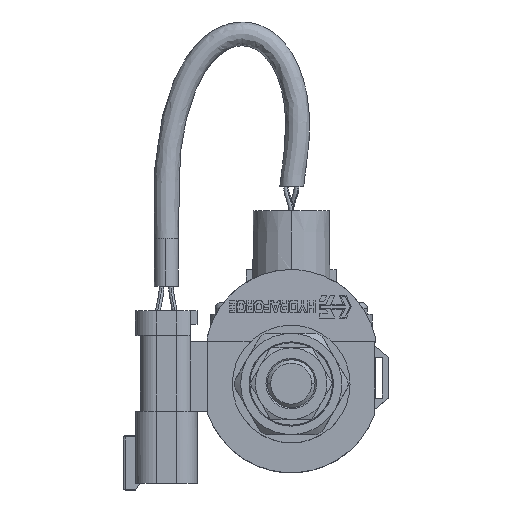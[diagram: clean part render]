
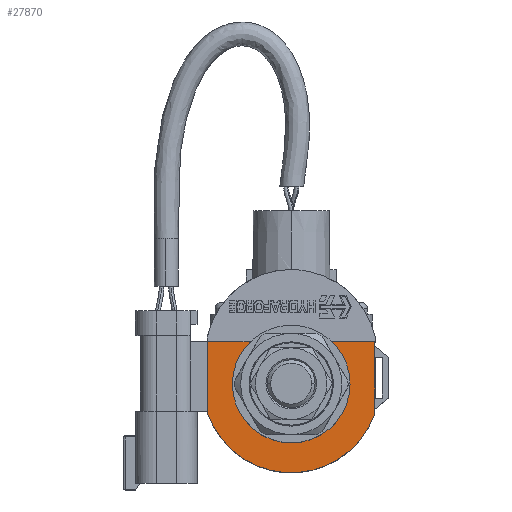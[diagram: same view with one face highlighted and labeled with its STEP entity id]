
A CAD part, top view. The second image highlights one B-rep face of the part: STEP entity #27870.
In plain terms, the highlighted planar face has unit normal (0, 0, 1).
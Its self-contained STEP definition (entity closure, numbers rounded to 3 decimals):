
#8184=CARTESIAN_POINT('',(0.,0.,24.384));
#8185=DIRECTION('',(0.,0.,1.));
#8186=DIRECTION('',(-0.803,0.596,0.));
#8187=AXIS2_PLACEMENT_3D('',#8184,#8185,#8186);
#8189=CARTESIAN_POINT('',(0.,0.,24.384));
#8190=DIRECTION('',(0.,0.,1.));
#8191=DIRECTION('',(-1.,0.,0.));
#8192=AXIS2_PLACEMENT_3D('',#8189,#8190,#8191);
#8194=CARTESIAN_POINT('',(0.,0.,24.384));
#8195=DIRECTION('',(0.,0.,1.));
#8196=DIRECTION('',(1.,0.,0.));
#8197=AXIS2_PLACEMENT_3D('',#8194,#8195,#8196);
#8199=DIRECTION('',(0.,1.,0.));
#8200=VECTOR('',#8199,2.921);
#8201=CARTESIAN_POINT('',(11.214,8.331,24.384));
#8202=LINE('',#8201,#8200);
#8203=DIRECTION('',(1.,0.,0.));
#8204=VECTOR('',#8203,11.062);
#8205=CARTESIAN_POINT('',(11.214,11.252,24.384));
#8206=LINE('',#8205,#8204);
#8207=DIRECTION('',(0.,-1.,0.));
#8208=VECTOR('',#8207,18.923);
#8209=CARTESIAN_POINT('',(22.276,11.252,24.384));
#8210=LINE('',#8209,#8208);
#8211=CARTESIAN_POINT('',(0.,0.,24.384));
#8212=DIRECTION('',(0.,0.,-1.));
#8213=DIRECTION('',(0.946,-0.326,0.));
#8214=AXIS2_PLACEMENT_3D('',#8211,#8212,#8213);
#8216=DIRECTION('',(0.,1.,0.));
#8217=VECTOR('',#8216,18.923);
#8218=CARTESIAN_POINT('',(-22.276,-7.671,24.384));
#8219=LINE('',#8218,#8217);
#8220=DIRECTION('',(1.,0.,0.));
#8221=VECTOR('',#8220,11.062);
#8222=CARTESIAN_POINT('',(-22.276,11.252,24.384));
#8223=LINE('',#8222,#8221);
#8224=DIRECTION('',(0.,-1.,0.));
#8225=VECTOR('',#8224,2.921);
#8226=CARTESIAN_POINT('',(-11.214,11.252,24.384));
#8227=LINE('',#8226,#8225);
#17413=CARTESIAN_POINT('',(-22.276,11.252,24.384));
#17414=VERTEX_POINT('',#17413);
#17415=CARTESIAN_POINT('',(-22.276,-7.671,24.384));
#17416=VERTEX_POINT('',#17415);
#17427=CARTESIAN_POINT('',(-11.214,8.331,24.384));
#17428=CARTESIAN_POINT('',(-13.97,0.,24.384));
#17429=VERTEX_POINT('',#17427);
#17430=VERTEX_POINT('',#17428);
#17431=CARTESIAN_POINT('',(13.97,0.,24.384));
#17432=VERTEX_POINT('',#17431);
#17433=CARTESIAN_POINT('',(11.214,8.331,24.384));
#17434=VERTEX_POINT('',#17433);
#17435=CARTESIAN_POINT('',(11.214,11.252,24.384));
#17436=VERTEX_POINT('',#17435);
#17437=CARTESIAN_POINT('',(22.276,11.252,24.384));
#17438=VERTEX_POINT('',#17437);
#17439=CARTESIAN_POINT('',(22.276,-7.671,24.384));
#17440=VERTEX_POINT('',#17439);
#17441=CARTESIAN_POINT('',(-11.214,11.252,24.384));
#17442=VERTEX_POINT('',#17441);
#27844=CARTESIAN_POINT('',(0.,11.252,24.384));
#27845=DIRECTION('',(0.,0.,1.));
#27846=DIRECTION('',(0.,1.,0.));
#27847=AXIS2_PLACEMENT_3D('',#27844,#27845,#27846);
#27848=PLANE('',#27847);
#27850=ORIENTED_EDGE('',*,*,#27849,.T.);
#27852=ORIENTED_EDGE('',*,*,#27851,.T.);
#27854=ORIENTED_EDGE('',*,*,#27853,.T.);
#27856=ORIENTED_EDGE('',*,*,#27855,.T.);
#27858=ORIENTED_EDGE('',*,*,#27857,.T.);
#27860=ORIENTED_EDGE('',*,*,#27859,.T.);
#27862=ORIENTED_EDGE('',*,*,#27861,.T.);
#27863=ORIENTED_EDGE('',*,*,#27825,.T.);
#27865=ORIENTED_EDGE('',*,*,#27864,.T.);
#27867=ORIENTED_EDGE('',*,*,#27866,.T.);
#27868=EDGE_LOOP('',(#27850,#27852,#27854,#27856,#27858,#27860,#27862,#27863,
#27865,#27867));
#27869=FACE_OUTER_BOUND('',#27868,.F.);
#27870=ADVANCED_FACE('',(#27869),#27848,.T.);
#8188=CIRCLE('',#8187,13.97);
#8193=CIRCLE('',#8192,13.97);
#8198=CIRCLE('',#8197,13.97);
#8215=CIRCLE('',#8214,23.56);
#27825=EDGE_CURVE('',#17416,#17414,#8219,.T.);
#27849=EDGE_CURVE('',#17429,#17430,#8188,.T.);
#27851=EDGE_CURVE('',#17430,#17432,#8193,.T.);
#27853=EDGE_CURVE('',#17432,#17434,#8198,.T.);
#27855=EDGE_CURVE('',#17434,#17436,#8202,.T.);
#27857=EDGE_CURVE('',#17436,#17438,#8206,.T.);
#27859=EDGE_CURVE('',#17438,#17440,#8210,.T.);
#27861=EDGE_CURVE('',#17440,#17416,#8215,.T.);
#27864=EDGE_CURVE('',#17414,#17442,#8223,.T.);
#27866=EDGE_CURVE('',#17442,#17429,#8227,.T.);
